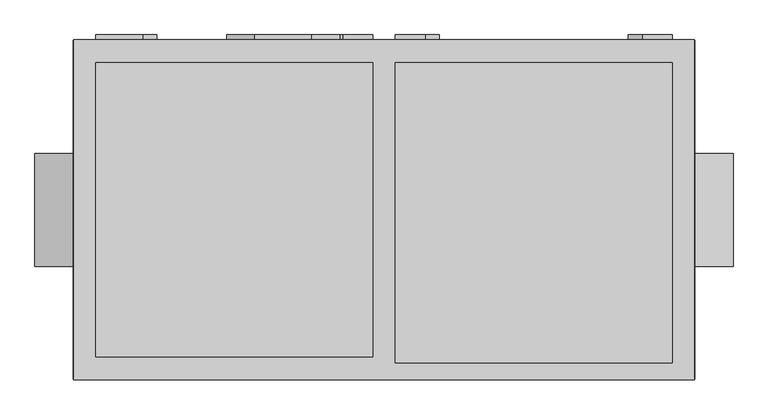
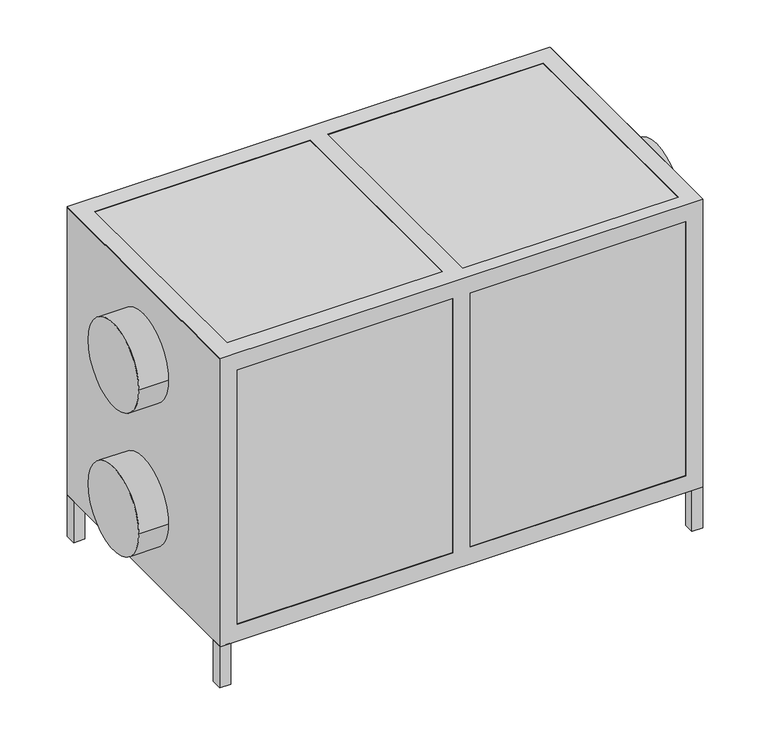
"""IFC4 building model written with IfcOpenShell, lengths in millimetres: proxy geometry, AVS 400...1600-S-RC(RG)-L : AVS 700-S-RG-L."""

from ifc_helpers import new_model, si_unit, point, frame, frame_2d, origin, origin_with_axes, place, context, project, spatial, polyline, circle_curve, trimmed, segment, composite_curve, outline, extrude, faceted_brep, source, transform, mapped, element, save


def mechanical_equipment_b66e81a1(model_context):
    return source(origin(), model_context, "Body", "SolidModel", [
        extrude(outline(polyline([(525.0, 300.5), (550.0, 300.5), (550.0, 275.5), (525.0, 275.5), (525.0, 300.5)])), origin_with_axes(), (0.0, 0.0, 1.0), 100.0),
        extrude(outline(polyline([(525.0, -300.5), (525.0, -275.5), (550.0, -275.5), (550.0, -300.5), (525.0, -300.5)])), origin_with_axes(), (0.0, 0.0, 1.0), 100.0),
        extrude(outline(polyline([(-550.0, 275.5), (-550.0, 300.5), (-525.0, 300.5), (-525.0, 275.5), (-550.0, 275.5)])), origin_with_axes(), (0.0, 0.0, 1.0), 100.0),
        extrude(outline(polyline([(-550.0, -275.5), (-525.0, -275.5), (-525.0, -300.5), (-550.0, -300.5), (-550.0, -275.5)])), origin_with_axes(), (0.0, 0.0, 1.0), 100.0),
        faceted_brep([(549.0, 301.5, 793.0), (-549.0, 301.5, 793.0), (-549.0, -301.5, 793.0), (549.0, -301.5, 793.0), (-510.0, 260.5, 793.0), (-20.0, 260.5, 793.0), (-20.0, -260.5, 793.0), (-510.0, -260.5, 793.0), (510.0, 260.5, 793.0), (510.0, -271.5, 793.0), (20.0, -271.5, 793.0), (20.0, 260.5, 793.0), (549.0, 301.5, 99.0), (549.0, -301.5, 99.0), (-549.0, -301.5, 99.0), (-549.0, 301.5, 99.0), (-20.0, 260.5, 99.0), (-510.0, 260.5, 99.0), (-510.0, -260.5, 99.0), (-20.0, -260.5, 99.0), (510.0, -271.5, 99.0), (510.0, 260.5, 99.0), (20.0, 260.5, 99.0), (20.0, -271.5, 99.0), (-20.0, 301.5, 752.0), (-510.0, 301.5, 752.0), (-510.0, 301.5, 140.0), (-20.0, 301.5, 140.0), (510.0, 301.5, 140.0), (510.0, 301.5, 752.0), (20.0, 301.5, 752.0), (20.0, 301.5, 140.0), (-549.0, -260.5, 752.0), (-549.0, -260.5, 140.0), (-549.0, 260.5, 140.0), (-549.0, 260.5, 752.0), (-510.0, -301.5, 752.0), (-20.0, -301.5, 752.0), (-20.0, -301.5, 140.0), (-510.0, -301.5, 140.0), (510.0, -301.5, 752.0), (510.0, -301.5, 140.0), (20.0, -301.5, 140.0), (20.0, -301.5, 752.0), (549.0, -260.5, 140.0), (549.0, -260.5, 752.0), (549.0, 260.5, 752.0), (549.0, 260.5, 140.0), (-510.0, 260.5, 752.0), (-20.0, 260.5, 752.0), (-20.0, 260.5, 140.0), (-510.0, 260.5, 140.0), (-20.0, -260.5, 752.0), (-510.0, -260.5, 752.0), (-510.0, -260.5, 140.0), (-20.0, -260.5, 140.0), (510.0, 260.5, 752.0), (510.0, -260.5, 752.0), (510.0, -260.5, 140.0), (510.0, 260.5, 140.0), (510.0, -271.5, 140.0), (510.0, -271.5, 752.0), (20.0, 260.5, 752.0), (20.0, -260.5, 752.0), (20.0, -260.5, 140.0), (20.0, 260.5, 140.0), (20.0, -271.5, 752.0), (20.0, -271.5, 140.0)], [[[0, 1, 2, 3], [4, 5, 6, 7], [8, 9, 10, 11]], [[12, 13, 14, 15], [16, 17, 18, 19], [20, 21, 22, 23]], [[1, 0, 12, 15], [24, 25, 26, 27], [28, 29, 30, 31]], [[2, 1, 15, 14], [32, 33, 34, 35]], [[3, 2, 14, 13], [36, 37, 38, 39], [40, 41, 42, 43]], [[0, 3, 13, 12], [44, 45, 46, 47]], [[5, 4, 48, 49]], [[17, 16, 50, 51]], [[7, 6, 52, 53]], [[19, 18, 54, 55]], [[9, 8, 56, 57, 58, 59, 21, 20, 60, 41, 40, 61]], [[56, 29, 28, 59]], [[35, 48, 53, 32]], [[56, 46, 45, 57]], [[49, 62, 63, 52]], [[51, 34, 33, 54]], [[47, 59, 58, 44]], [[55, 64, 65, 50]], [[36, 53, 52, 37]], [[24, 49, 48, 25]], [[54, 39, 38, 55]], [[50, 27, 26, 51]], [[32, 53, 54, 33]], [[57, 45, 44, 58]], [[52, 63, 64, 55]], [[48, 35, 34, 51]], [[62, 49, 50, 65]], [[59, 47, 46, 56]], [[4, 7, 53, 48]], [[18, 17, 51, 54]], [[53, 36, 39, 54]], [[25, 48, 51, 26]], [[6, 5, 49, 52]], [[16, 19, 55, 50]], [[37, 52, 55, 38]], [[49, 24, 27, 50]], [[8, 11, 62, 56]], [[22, 21, 59, 65]], [[11, 10, 66, 43, 42, 67, 23, 22, 65, 64, 63, 62]], [[30, 62, 65, 31]], [[10, 9, 61, 66]], [[20, 23, 67, 60]], [[61, 40, 43, 66]], [[29, 56, 62, 30]], [[41, 60, 67, 42]], [[59, 28, 31, 65]]]),
        extrude(outline(polyline([(-550.0, 300.5), (550.0, 300.5), (550.0, -300.5), (-550.0, -300.5), (-550.0, 300.5)])), frame((0.0, 0.0, 100.0), z_axis=(0.0, 0.0, 1.0), x_axis=(1.0, 0.0, 0.0)), (0.0, 0.0, 1.0), 692.0),
        extrude(outline(composite_curve([segment(polyline([(644.0, -427.2895396), (644.0, -510.0), (594.0, -510.0), (594.0, -427.2895396)]), True, "CONTINUOUS"), segment(trimmed(circle_curve(frame_2d((619.0, -427.2895396)), 25.0), [point((594.0, -427.2895396))], [point((644.0, -427.2895396))], False, "CARTESIAN"), True, "CONTINUOUS")], self_intersect=False)), frame((0.0, 300.5, 0.0), z_axis=(0.0, 1.0, 0.0), x_axis=(0.0, 0.0, 1.0)), (0.0, 0.0, 1.0), 9.5),
        extrude(outline(composite_curve([segment(polyline([(298.0, -427.2895396), (298.0, -510.0), (248.0, -510.0), (248.0, -427.2895396)]), True, "CONTINUOUS"), segment(trimmed(circle_curve(frame_2d((273.0, -427.2895396)), 25.0), [point((248.0, -427.2895396))], [point((298.0, -427.2895396))], False, "CARTESIAN"), True, "CONTINUOUS")], self_intersect=False)), frame((0.0, 300.5, 0.0), z_axis=(0.0, 1.0, 0.0), x_axis=(0.0, 0.0, 1.0)), (0.0, 0.0, 1.0), 9.5),
        extrude(outline(composite_curve([segment(trimmed(circle_curve(frame_2d((549.0, -72.7104604)), 25.0), [point((574.0, -72.7104604))], [point((524.0, -72.7104604))], False, "CARTESIAN"), True, "CONTINUOUS"), segment(polyline([(524.0, -72.7104604), (524.0, -20.0), (574.0, -20.0), (574.0, -72.7104604)]), True, "CONTINUOUS")], self_intersect=False)), frame((0.0, 300.5, 0.0), z_axis=(0.0, 1.0, 0.0), x_axis=(0.0, 0.0, 1.0)), (0.0, 0.0, 1.0), 9.5),
        extrude(outline(composite_curve([segment(polyline([(318.0, -72.7104604), (318.0, -20.0), (368.0, -20.0), (368.0, -72.7104604)]), True, "CONTINUOUS"), segment(trimmed(circle_curve(frame_2d((343.0, -72.7104604)), 25.0), [point((368.0, -72.7104604))], [point((318.0, -72.7104604))], False, "CARTESIAN"), True, "CONTINUOUS")], self_intersect=False)), frame((0.0, 300.5, 0.0), z_axis=(0.0, 1.0, 0.0), x_axis=(0.0, 0.0, 1.0)), (0.0, 0.0, 1.0), 9.5),
        extrude(outline(composite_curve([segment(trimmed(circle_curve(frame_2d((727.0, 457.2895396)), 25.0), [point((752.0, 457.2895396))], [point((702.0, 457.2895396))], False, "CARTESIAN"), True, "CONTINUOUS"), segment(polyline([(702.0, 457.2895396), (702.0, 510.0), (752.0, 510.0), (752.0, 457.2895396)]), True, "CONTINUOUS")], self_intersect=False)), frame((0.0, 300.5, 0.0), z_axis=(0.0, 1.0, 0.0), x_axis=(0.0, 0.0, 1.0)), (0.0, 0.0, 1.0), 9.5),
        extrude(outline(composite_curve([segment(polyline([(140.0, 457.2895396), (140.0, 510.0), (190.0, 510.0), (190.0, 457.2895396)]), True, "CONTINUOUS"), segment(trimmed(circle_curve(frame_2d((165.0, 457.2895396)), 25.0), [point((190.0, 457.2895396))], [point((140.0, 457.2895396))], False, "CARTESIAN"), True, "CONTINUOUS")], self_intersect=False)), frame((0.0, 300.5, 0.0), z_axis=(0.0, 1.0, 0.0), x_axis=(0.0, 0.0, 1.0)), (0.0, 0.0, 1.0), 9.5),
        extrude(outline(composite_curve([segment(polyline([(694.0, 72.7104604), (694.0, 20.0), (644.0, 20.0), (644.0, 72.7104604)]), True, "CONTINUOUS"), segment(trimmed(circle_curve(frame_2d((669.0, 72.7104604)), 25.0), [point((644.0, 72.7104604))], [point((694.0, 72.7104604))], False, "CARTESIAN"), True, "CONTINUOUS")], self_intersect=False)), frame((0.0, 300.5, 0.0), z_axis=(0.0, 1.0, 0.0), x_axis=(0.0, 0.0, 1.0)), (0.0, 0.0, 1.0), 9.5),
        extrude(outline(composite_curve([segment(trimmed(circle_curve(frame_2d((223.0, 72.7104604)), 25.0), [point((198.0, 72.7104604))], [point((248.0, 72.7104604))], False, "CARTESIAN"), True, "CONTINUOUS"), segment(polyline([(248.0, 72.7104604), (248.0, 20.0), (198.0, 20.0), (198.0, 72.7104604)]), True, "CONTINUOUS")], self_intersect=False)), frame((0.0, 300.5, 0.0), z_axis=(0.0, 1.0, 0.0), x_axis=(0.0, 0.0, 1.0)), (0.0, 0.0, 1.0), 9.5),
        extrude(outline(composite_curve([segment(polyline([(742.9531077, -128.4249776), (742.9531077, -228.4249776)]), True, "CONTINUOUS"), segment(trimmed(circle_curve(frame_2d((692.9531077, -228.4249776)), 50.0), [point((742.9531077, -228.4249776))], [point((642.9531077, -228.4249776))], False, "CARTESIAN"), True, "CONTINUOUS"), segment(polyline([(642.9531077, -228.4249776), (642.9531077, -128.4249776)]), True, "CONTINUOUS"), segment(trimmed(circle_curve(frame_2d((692.9531077, -128.4249776)), 50.0), [point((642.9531077, -128.4249776))], [point((742.9531077, -128.4249776))], False, "CARTESIAN"), True, "CONTINUOUS")], self_intersect=False)), frame((0.0, 300.5, 0.0), z_axis=(0.0, 1.0, 0.0), x_axis=(0.0, 0.0, 1.0)), (0.0, 0.0, 1.0), 9.5),
        extrude(outline(composite_curve([segment(trimmed(circle_curve(frame_2d((0.0, 619.0)), 100.0), [point((-100.0, 619.0))], [point((100.0, 619.0))], False, "CARTESIAN"), True, "CONTINUOUS"), segment(trimmed(circle_curve(frame_2d((0.0, 619.0)), 100.0), [point((100.0, 619.0))], [point((-100.0, 619.0))], False, "CARTESIAN"), True, "CONTINUOUS")], self_intersect=False)), frame((-618.0, 0.0, 0.0), z_axis=(1.0, 0.0, 0.0), x_axis=(0.0, 1.0, 0.0)), (0.0, 0.0, 1.0), 68.0),
        extrude(outline(composite_curve([segment(trimmed(circle_curve(frame_2d((0.0, 273.0)), 100.0), [point((-100.0, 273.0))], [point((100.0, 273.0))], False, "CARTESIAN"), True, "CONTINUOUS"), segment(trimmed(circle_curve(frame_2d((0.0, 273.0)), 100.0), [point((100.0, 273.0))], [point((-100.0, 273.0))], False, "CARTESIAN"), True, "CONTINUOUS")], self_intersect=False)), frame((-618.0, 0.0, 0.0), z_axis=(1.0, 0.0, 0.0), x_axis=(0.0, 1.0, 0.0)), (0.0, 0.0, 1.0), 68.0),
        extrude(outline(composite_curve([segment(trimmed(circle_curve(frame_2d((0.0, 619.0)), 100.0), [point((-100.0, 619.0))], [point((100.0, 619.0))], False, "CARTESIAN"), True, "CONTINUOUS"), segment(trimmed(circle_curve(frame_2d((0.0, 619.0)), 100.0), [point((100.0, 619.0))], [point((-100.0, 619.0))], False, "CARTESIAN"), True, "CONTINUOUS")], self_intersect=False)), frame((550.0, 0.0, 0.0), z_axis=(1.0, 0.0, 0.0), x_axis=(0.0, 1.0, 0.0)), (0.0, 0.0, 1.0), 68.0),
        extrude(outline(composite_curve([segment(trimmed(circle_curve(frame_2d((0.0, 273.0)), 100.0), [point((-100.0, 273.0))], [point((100.0, 273.0))], False, "CARTESIAN"), True, "CONTINUOUS"), segment(trimmed(circle_curve(frame_2d((0.0, 273.0)), 100.0), [point((100.0, 273.0))], [point((-100.0, 273.0))], False, "CARTESIAN"), True, "CONTINUOUS")], self_intersect=False)), frame((550.0, 0.0, 0.0), z_axis=(1.0, 0.0, 0.0), x_axis=(0.0, 1.0, 0.0)), (0.0, 0.0, 1.0), 68.0),
    ])


if __name__ == "__main__":
    model = new_model("IFC4")
    model_context = context("Model", 3, world=origin())
    ifc_project = project(units=[si_unit("LENGTHUNIT", "METRE", prefix="MILLI")], contexts=[model_context])
    site = spatial("IfcSite", under=ifc_project)
    building = spatial("IfcBuilding", under=site)
    placement = place(None, origin())
    mechanical_equipment_shape = mechanical_equipment_b66e81a1(model_context)
    element("IfcBuildingElementProxy", 1, Name="AVS 400...1600-S-RC(RG)-L : AVS 700-S-RG-L", ObjectType="AVS 400...1600-S-RC(RG)-L : AVS 700-S-RG-L", at=placement, inside=building, context=model_context, shape_type="MappedRepresentation", body=[
        mapped(mechanical_equipment_shape, transform((0.0, 0.0, 0.0), x_axis=(1.0, 0.0, 0.0), y_axis=(0.0, 1.0, 0.0), z_axis=(0.0, 0.0, 1.0))),
    ])
    save(model, "model.ifc")
